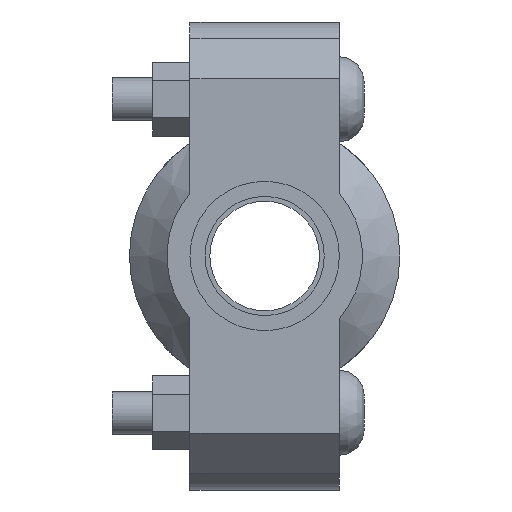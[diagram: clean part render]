
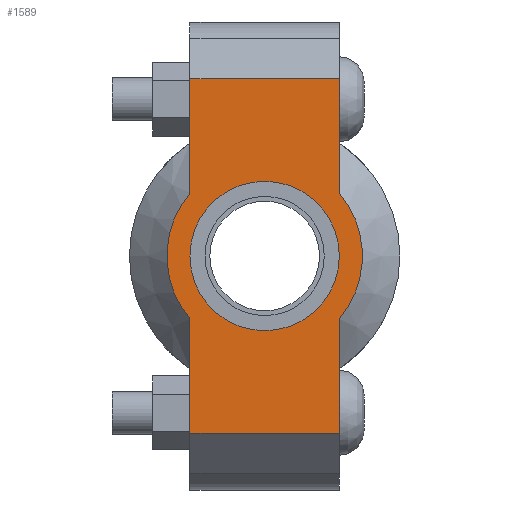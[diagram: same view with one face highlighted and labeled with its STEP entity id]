
A CAD part, left-side view. The second image highlights one B-rep face of the part: STEP entity #1589.
In plain terms, the highlighted planar face has unit normal (-1, 0, 0) as drawn and (0, 0, 1) by its records, which use the part's own axes.
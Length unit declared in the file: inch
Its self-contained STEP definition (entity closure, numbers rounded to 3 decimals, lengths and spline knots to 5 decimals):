
#144=LINE('',#2747,#241);
#159=LINE('',#2806,#256);
#167=LINE('',#2836,#264);
#169=LINE('',#2839,#266);
#170=LINE('',#2844,#267);
#171=LINE('',#2845,#268);
#241=VECTOR('',#2239,0.3937);
#256=VECTOR('',#2274,0.3937);
#264=VECTOR('',#2294,0.3937);
#266=VECTOR('',#2298,0.3937);
#267=VECTOR('',#2303,0.3937);
#268=VECTOR('',#2304,0.3937);
#332=FACE_BOUND('',#509,.T.);
#400=FACE_OUTER_BOUND('',#508,.T.);
#508=EDGE_LOOP('',(#1290,#1291,#1292,#1293,#1294,#1295,#1296,#1297));
#509=EDGE_LOOP('',(#1298));
#591=CIRCLE('',#1817,0.6575);
#615=CIRCLE('',#1869,0.86);
#616=CIRCLE('',#1870,0.86);
#687=VERTEX_POINT('',#2573);
#728=VERTEX_POINT('',#2744);
#729=VERTEX_POINT('',#2746);
#750=VERTEX_POINT('',#2801);
#751=VERTEX_POINT('',#2805);
#760=VERTEX_POINT('',#2831);
#761=VERTEX_POINT('',#2835);
#762=VERTEX_POINT('',#2841);
#763=VERTEX_POINT('',#2843);
#851=EDGE_CURVE('',#687,#687,#591,.T.);
#908=EDGE_CURVE('',#729,#728,#144,.T.);
#933=EDGE_CURVE('',#751,#750,#159,.T.);
#946=EDGE_CURVE('',#761,#760,#167,.T.);
#948=EDGE_CURVE('',#761,#728,#169,.T.);
#949=EDGE_CURVE('',#760,#762,#615,.T.);
#950=EDGE_CURVE('',#762,#763,#170,.T.);
#951=EDGE_CURVE('',#751,#763,#171,.T.);
#952=EDGE_CURVE('',#750,#729,#616,.T.);
#1290=ORIENTED_EDGE('',*,*,#948,.F.);
#1291=ORIENTED_EDGE('',*,*,#946,.T.);
#1292=ORIENTED_EDGE('',*,*,#949,.T.);
#1293=ORIENTED_EDGE('',*,*,#950,.T.);
#1294=ORIENTED_EDGE('',*,*,#951,.F.);
#1295=ORIENTED_EDGE('',*,*,#933,.T.);
#1296=ORIENTED_EDGE('',*,*,#952,.T.);
#1297=ORIENTED_EDGE('',*,*,#908,.T.);
#1298=ORIENTED_EDGE('',*,*,#851,.T.);
#1429=PLANE('',#1868);
#1589=ADVANCED_FACE('',(#400,#332),#1429,.T.);
#1817=AXIS2_PLACEMENT_3D('',#2575,#2129,#2130);
#1868=AXIS2_PLACEMENT_3D('',#2840,#2299,#2300);
#1869=AXIS2_PLACEMENT_3D('',#2842,#2301,#2302);
#1870=AXIS2_PLACEMENT_3D('',#2846,#2305,#2306);
#2129=DIRECTION('center_axis',(0.,0.,-1.));
#2130=DIRECTION('ref_axis',(-1.,0.,0.));
#2239=DIRECTION('',(-1.,0.,0.));
#2274=DIRECTION('',(-1.,0.,0.));
#2294=DIRECTION('',(1.,0.,0.));
#2298=DIRECTION('',(0.,1.,0.));
#2299=DIRECTION('center_axis',(0.,0.,1.));
#2300=DIRECTION('ref_axis',(1.,0.,0.));
#2301=DIRECTION('center_axis',(0.,0.,1.));
#2302=DIRECTION('ref_axis',(-1.,0.,0.));
#2303=DIRECTION('',(1.,0.,0.));
#2304=DIRECTION('',(0.,-1.,0.));
#2305=DIRECTION('center_axis',(0.,0.,1.));
#2306=DIRECTION('ref_axis',(-1.,0.,0.));
#2573=CARTESIAN_POINT('',(0.6575,0.,0.875));
#2575=CARTESIAN_POINT('Origin',(0.,0.,0.875));
#2744=CARTESIAN_POINT('',(-1.56,0.6575,0.875));
#2746=CARTESIAN_POINT('',(-0.55434,0.6575,0.875));
#2747=CARTESIAN_POINT('',(2.06,0.6575,0.875));
#2801=CARTESIAN_POINT('',(0.55434,0.6575,0.875));
#2805=CARTESIAN_POINT('',(1.56,0.6575,0.875));
#2806=CARTESIAN_POINT('',(2.06,0.6575,0.875));
#2831=CARTESIAN_POINT('',(-0.55434,-0.6575,0.875));
#2835=CARTESIAN_POINT('',(-1.56,-0.6575,0.875));
#2836=CARTESIAN_POINT('',(-2.06,-0.6575,0.875));
#2839=CARTESIAN_POINT('',(-1.56,0.32875,0.875));
#2840=CARTESIAN_POINT('Origin',(0.,0.,
0.875));
#2841=CARTESIAN_POINT('',(0.55434,-0.6575,0.875));
#2842=CARTESIAN_POINT('Origin',(0.,0.,0.875));
#2843=CARTESIAN_POINT('',(1.56,-0.6575,0.875));
#2844=CARTESIAN_POINT('',(-2.06,-0.6575,0.875));
#2845=CARTESIAN_POINT('',(1.56,-0.32875,0.875));
#2846=CARTESIAN_POINT('Origin',(0.,0.,0.875));
